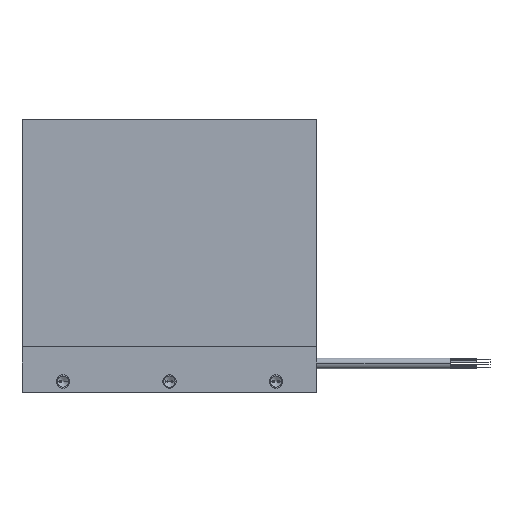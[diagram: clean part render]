
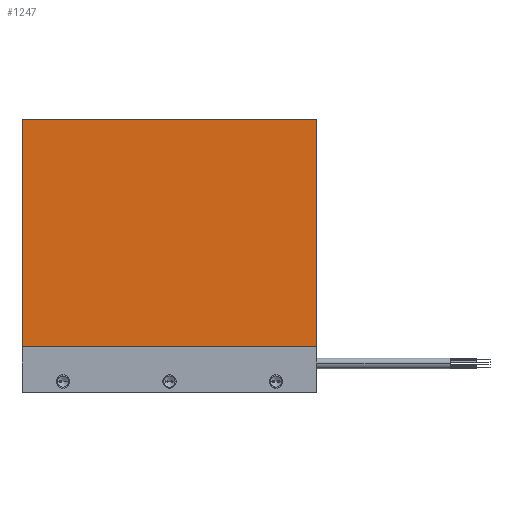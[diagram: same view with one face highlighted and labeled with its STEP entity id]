
A CAD part, left-side view. The second image highlights one B-rep face of the part: STEP entity #1247.
In plain terms, the highlighted planar face has unit normal (-1, 0, 0).
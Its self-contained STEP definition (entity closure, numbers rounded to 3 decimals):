
#21=DIRECTION('',(0.,0.,1.));
#22=VECTOR('',#21,85.3);
#23=CARTESIAN_POINT('',(-2.2,-55.4,0.));
#24=LINE('',#23,#22);
#71=DIRECTION('',(0.,1.,0.));
#72=VECTOR('',#71,110.8);
#73=CARTESIAN_POINT('',(-2.2,-55.4,85.3));
#74=LINE('',#73,#72);
#75=DIRECTION('',(0.,1.,0.));
#76=VECTOR('',#75,110.8);
#77=CARTESIAN_POINT('',(-2.2,-55.4,0.));
#78=LINE('',#77,#76);
#207=DIRECTION('',(0.,0.,1.));
#208=VECTOR('',#207,85.3);
#209=CARTESIAN_POINT('',(-2.2,55.4,0.));
#210=LINE('',#209,#208);
#903=CARTESIAN_POINT('',(-2.2,-55.4,0.));
#904=VERTEX_POINT('',#903);
#905=CARTESIAN_POINT('',(-2.2,-55.4,85.3));
#906=VERTEX_POINT('',#905);
#919=CARTESIAN_POINT('',(-2.2,55.4,0.));
#920=VERTEX_POINT('',#919);
#921=CARTESIAN_POINT('',(-2.2,55.4,85.3));
#922=VERTEX_POINT('',#921);
#1234=CARTESIAN_POINT('',(-2.2,-55.4,0.));
#1235=DIRECTION('',(-1.,0.,0.));
#1236=DIRECTION('',(0.,0.,1.));
#1237=AXIS2_PLACEMENT_3D('',#1234,#1235,#1236);
#1238=PLANE('',#1237);
#1239=ORIENTED_EDGE('',*,*,#1164,.F.);
#1241=ORIENTED_EDGE('',*,*,#1240,.T.);
#1243=ORIENTED_EDGE('',*,*,#1242,.T.);
#1244=ORIENTED_EDGE('',*,*,#1226,.F.);
#1245=EDGE_LOOP('',(#1239,#1241,#1243,#1244));
#1246=FACE_OUTER_BOUND('',#1245,.F.);
#1247=ADVANCED_FACE('',(#1246),#1238,.T.);
#1164=EDGE_CURVE('',#904,#906,#24,.T.);
#1226=EDGE_CURVE('',#906,#922,#74,.T.);
#1240=EDGE_CURVE('',#904,#920,#78,.T.);
#1242=EDGE_CURVE('',#920,#922,#210,.T.);
